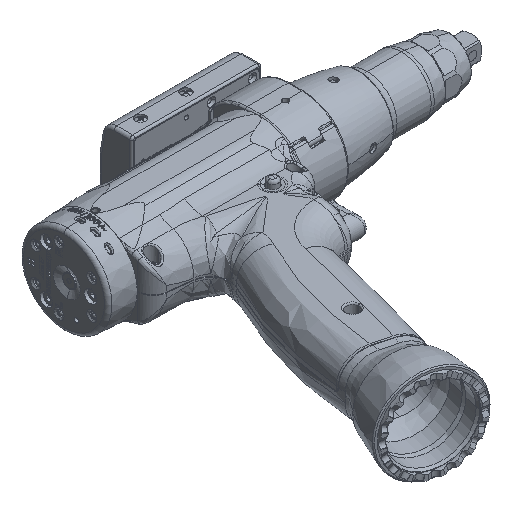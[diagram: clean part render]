
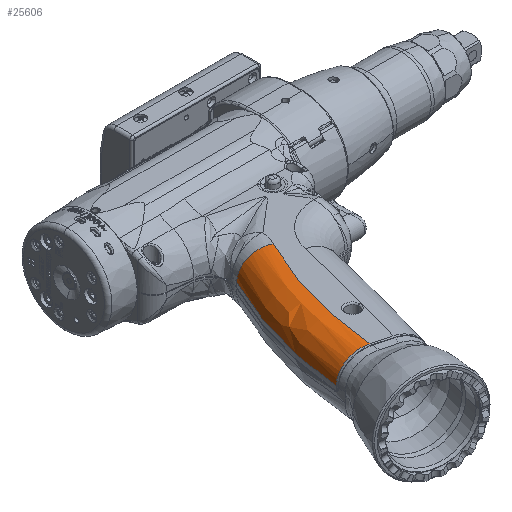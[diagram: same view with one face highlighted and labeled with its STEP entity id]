
A CAD part, isometric view. The second image highlights one B-rep face of the part: STEP entity #25606.
In plain terms, the highlighted free-form (B-spline) face has degree [2, 3] with [3, 4] control points.
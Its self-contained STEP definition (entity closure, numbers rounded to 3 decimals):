
#22662 = ORIENTED_EDGE ( 'NONE', *, *, #49133, .F. ) ;
#22704 = ORIENTED_EDGE ( 'NONE', *, *, #24856, .F. ) ;
#22881 = VERTEX_POINT ( 'NONE', #75784 ) ;
#24856 = EDGE_CURVE ( 'NONE', #25134, #55180, #77824, .T. ) ;
#25134 = VERTEX_POINT ( 'NONE', #78015 ) ;
#25142 = ORIENTED_EDGE ( 'NONE', *, *, #25160, .F. ) ;
#25160 = EDGE_CURVE ( 'NONE', #50511, #22881, #78087, .T. ) ;
#25429 = EDGE_LOOP ( 'NONE', ( #25454, #25142, #22662, #22704 ) ) ;
#25436 = EDGE_CURVE ( 'NONE', #22881, #25134, #33236, .T. ) ;
#25454 = ORIENTED_EDGE ( 'NONE', *, *, #25436, .F. ) ;
#25606 = ADVANCED_FACE ( 'NONE', ( #33359 ), #33405, .T. ) ;
#33221 = CARTESIAN_POINT ( 'NONE',  ( -106.144, -119.742, 2.5 ) ) ;
#33223 = CARTESIAN_POINT ( 'NONE',  ( -106.144, -119.742, 4.346 ) ) ;
#33224 = CARTESIAN_POINT ( 'NONE',  ( -105.419, -119.936, 8.035 ) ) ;
#33225 = CARTESIAN_POINT ( 'NONE',  ( -102.344, -120.76, 12.694 ) ) ;
#33226 = CARTESIAN_POINT ( 'NONE',  ( -97.781, -121.983, 15.781 ) ) ;
#33228 = CARTESIAN_POINT ( 'NONE',  ( -94.209, -122.94, 16.5 ) ) ;
#33230 = CARTESIAN_POINT ( 'NONE',  ( -92.42, -123.419, 16.5 ) ) ;
#33236 = B_SPLINE_CURVE_WITH_KNOTS ( 'NONE', 3,
 ( #33230, #33228, #33226, #33225, #33224, #33223, #33221 ),
 .UNSPECIFIED., .F., .F.,
 ( 4, 1, 1, 1, 4 ),
 ( 0., 0.25, 0.5, 0.75, 1. ),
 .UNSPECIFIED. ) ;
#33359 = FACE_OUTER_BOUND ( 'NONE', #25429, .T. ) ;
#33372 = CARTESIAN_POINT ( 'NONE',  ( -72.79, -53.792, 16.5 ) ) ;
#33373 = CARTESIAN_POINT ( 'NONE',  ( -85.031, -78.17, 16.5 ) ) ;
#33374 = CARTESIAN_POINT ( 'NONE',  ( -91.952, -105.13, 16.5 ) ) ;
#33376 = CARTESIAN_POINT ( 'NONE',  ( -92.968, -132.389, 16.5 ) ) ;
#33377 = CARTESIAN_POINT ( 'NONE',  ( -85.302, -47.51, 16.5 ) ) ;
#33378 = CARTESIAN_POINT ( 'NONE',  ( -98.439, -73.674, 16.5 ) ) ;
#33379 = CARTESIAN_POINT ( 'NONE',  ( -105.868, -102.611, 16.5 ) ) ;
#33380 = CARTESIAN_POINT ( 'NONE',  ( -106.958, -131.868, 16.5 ) ) ;
#33381 = CARTESIAN_POINT ( 'NONE',  ( -85.302, -47.51, 2.5 ) ) ;
#33383 = CARTESIAN_POINT ( 'NONE',  ( -98.439, -73.674, 2.5 ) ) ;
#33384 = CARTESIAN_POINT ( 'NONE',  ( -105.868, -102.611, 2.5 ) ) ;
#33386 = CARTESIAN_POINT ( 'NONE',  ( -106.958, -131.868, 2.5 ) ) ;
#33405 =( BOUNDED_SURFACE ( )  B_SPLINE_SURFACE ( 2, 3, ( 
 ( #33386, #33384, #33383, #33381 ),
 ( #33380, #33379, #33378, #33377 ),
 ( #33376, #33374, #33373, #33372 ) ),
 .UNSPECIFIED., .F., .F., .F. ) 
 B_SPLINE_SURFACE_WITH_KNOTS ( ( 3, 3 ),
 ( 4, 4 ),
 ( 0., 1. ),
 ( 0.037, 0.465 ),
 .UNSPECIFIED. ) 
 GEOMETRIC_REPRESENTATION_ITEM ( )  RATIONAL_B_SPLINE_SURFACE ( (
 ( 1., 1., 1., 1.),
 ( 0.707, 0.707, 0.707, 0.707),
 ( 1., 1., 1., 1.) ) ) 
 REPRESENTATION_ITEM ( '' )  SURFACE ( )  );
#49133 = EDGE_CURVE ( 'NONE', #55180, #50511, #77893, .T. ) ;
#50511 = VERTEX_POINT ( 'NONE', #79077 ) ;
#55180 = VERTEX_POINT ( 'NONE', #81103 ) ;
#75784 = CARTESIAN_POINT ( 'NONE',  ( -92.42, -123.419, 16.5 ) ) ;
#77824 = B_SPLINE_CURVE_WITH_KNOTS ( 'NONE', 3,
 ( #77924, #77923, #77922, #77921, #77920, #77917 ),
 .UNSPECIFIED., .F., .F.,
 ( 4, 2, 4 ),
 ( 0.063, 0.531, 1. ),
 .UNSPECIFIED. ) ;
#77880 = CARTESIAN_POINT ( 'NONE',  ( -72.79, -53.792, 16.5 ) ) ;
#77882 = CARTESIAN_POINT ( 'NONE',  ( -85.302, -47.51, 16.5 ) ) ;
#77884 = CARTESIAN_POINT ( 'NONE',  ( -85.302, -47.51, 2.5 ) ) ;
#77893 =( BOUNDED_CURVE ( )  B_SPLINE_CURVE ( 2, ( #77884, #77882, #77880 ),
 .UNSPECIFIED., .F., .F. ) 
 B_SPLINE_CURVE_WITH_KNOTS ( ( 3, 3 ),
 ( 0., 1. ),
 .UNSPECIFIED. ) 
 CURVE ( )  GEOMETRIC_REPRESENTATION_ITEM ( )  RATIONAL_B_SPLINE_CURVE ( ( 1., 0.707, 1. ) ) 
 REPRESENTATION_ITEM ( '' )  );
#77917 = CARTESIAN_POINT ( 'NONE',  ( -85.302, -47.51, 2.5 ) ) ;
#77920 = CARTESIAN_POINT ( 'NONE',  ( -90.956, -58.771, 2.5 ) ) ;
#77921 = CARTESIAN_POINT ( 'NONE',  ( -95.569, -70.555, 2.5 ) ) ;
#77922 = CARTESIAN_POINT ( 'NONE',  ( -102.557, -94.769, 2.5 ) ) ;
#77923 = CARTESIAN_POINT ( 'NONE',  ( -104.931, -107.199, 2.5 ) ) ;
#77924 = CARTESIAN_POINT ( 'NONE',  ( -106.144, -119.742, 2.5 ) ) ;
#78015 = CARTESIAN_POINT ( 'NONE',  ( -106.144, -119.742, 2.5 ) ) ;
#78064 = CARTESIAN_POINT ( 'NONE',  ( -92.42, -123.419, 16.5 ) ) ;
#78065 = CARTESIAN_POINT ( 'NONE',  ( -91.909, -117.38, 16.5 ) ) ;
#78066 = CARTESIAN_POINT ( 'NONE',  ( -90.713, -108.381, 16.5 ) ) ;
#78067 = CARTESIAN_POINT ( 'NONE',  ( -88.565, -97.984, 16.5 ) ) ;
#78068 = CARTESIAN_POINT ( 'NONE',  ( -87.484, -93.551, 16.5 ) ) ;
#78069 = CARTESIAN_POINT ( 'NONE',  ( -86.727, -90.6, 16.5 ) ) ;
#78071 = CARTESIAN_POINT ( 'NONE',  ( -86.33, -89.125, 16.5 ) ) ;
#78072 = CARTESIAN_POINT ( 'NONE',  ( -82.612, -75.927, 16.5 ) ) ;
#78074 = CARTESIAN_POINT ( 'NONE',  ( -78.236, -64.638, 16.5 ) ) ;
#78075 = CARTESIAN_POINT ( 'NONE',  ( -72.79, -53.792, 16.5 ) ) ;
#78087 = B_SPLINE_CURVE_WITH_KNOTS ( 'NONE', 3,
 ( #78075, #78074, #78072, #78071, #78069, #78068, #78067, #78066, #78065, #78064 ),
 .UNSPECIFIED., .F., .F.,
 ( 4, 2, 2, 1, 1, 4 ),
 ( 0., 0.467, 0.526, 0.584, 0.701, 0.935 ),
 .UNSPECIFIED. ) ;
#79077 = CARTESIAN_POINT ( 'NONE',  ( -72.79, -53.792, 16.5 ) ) ;
#81103 = CARTESIAN_POINT ( 'NONE',  ( -85.302, -47.51, 2.5 ) ) ;
